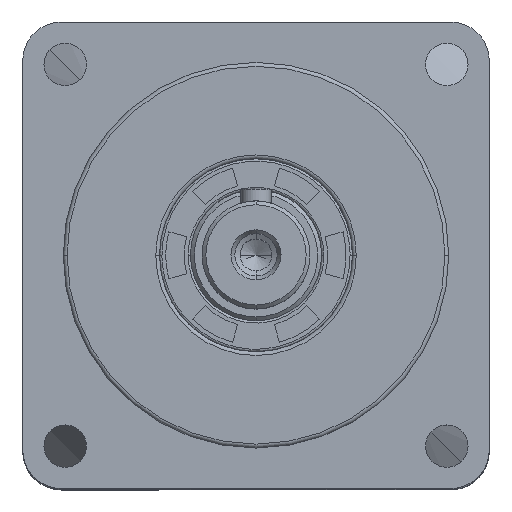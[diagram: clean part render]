
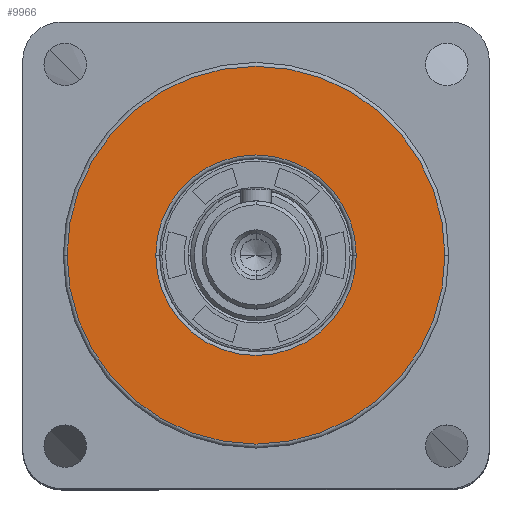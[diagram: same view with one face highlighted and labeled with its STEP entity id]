
A CAD part, top view. The second image highlights one B-rep face of the part: STEP entity #9966.
In plain terms, the highlighted planar face has unit normal (0, 0, 1).
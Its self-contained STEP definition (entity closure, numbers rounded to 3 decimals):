
#392 = EDGE_CURVE ( 'NONE', #20769, #27428, #6198, .T. ) ;
#592 = CARTESIAN_POINT ( 'NONE',  ( 0., 0., 20.9 ) ) ;
#644 = EDGE_CURVE ( 'NONE', #18388, #7050, #17569, .T. ) ;
#1146 = CARTESIAN_POINT ( 'NONE',  ( 24.5, 0., 20.9 ) ) ;
#4259 = EDGE_LOOP ( 'NONE', ( #14883, #4733 ) ) ;
#4733 = ORIENTED_EDGE ( 'NONE', *, *, #644, .T. ) ;
#5313 = AXIS2_PLACEMENT_3D ( 'NONE', #25656, #13264, #10653 ) ;
#6198 = CIRCLE ( 'NONE', #8673, 13. ) ;
#6835 = AXIS2_PLACEMENT_3D ( 'NONE', #7025, #24664, #27523 ) ;
#7025 = CARTESIAN_POINT ( 'NONE',  ( 0., 0., 20.9 ) ) ;
#7050 = VERTEX_POINT ( 'NONE', #1146 ) ;
#8105 = DIRECTION ( 'NONE',  ( 1., 0., 0. ) ) ;
#8417 = DIRECTION ( 'NONE',  ( 0., 0., -1. ) ) ;
#8673 = AXIS2_PLACEMENT_3D ( 'NONE', #592, #8417, #8105 ) ;
#9390 = AXIS2_PLACEMENT_3D ( 'NONE', #16859, #27074, #9768 ) ;
#9768 = DIRECTION ( 'NONE',  ( 1., 0., 0. ) ) ;
#9966 = ADVANCED_FACE ( 'NONE', ( #19843, #22985 ), #21821, .T. ) ;
#10653 = DIRECTION ( 'NONE',  ( 1., 0., 0. ) ) ;
#12395 = CIRCLE ( 'NONE', #9390, 24.5 ) ;
#12509 = DIRECTION ( 'NONE',  ( 1., 0., 0. ) ) ;
#13264 = DIRECTION ( 'NONE',  ( 0., 0., 1. ) ) ;
#14883 = ORIENTED_EDGE ( 'NONE', *, *, #17980, .T. ) ;
#15757 = CARTESIAN_POINT ( 'NONE',  ( -24.5, 0., 20.9 ) ) ;
#16859 = CARTESIAN_POINT ( 'NONE',  ( 0., 0., 20.9 ) ) ;
#17527 = CARTESIAN_POINT ( 'NONE',  ( 0., 0., 20.9 ) ) ;
#17569 = CIRCLE ( 'NONE', #5313, 24.5 ) ;
#17980 = EDGE_CURVE ( 'NONE', #7050, #18388, #12395, .T. ) ;
#18388 = VERTEX_POINT ( 'NONE', #15757 ) ;
#18719 = ORIENTED_EDGE ( 'NONE', *, *, #26914, .T. ) ;
#19649 = CIRCLE ( 'NONE', #6835, 13. ) ;
#19843 = FACE_OUTER_BOUND ( 'NONE', #4259, .T. ) ;
#20769 = VERTEX_POINT ( 'NONE', #21547 ) ;
#21547 = CARTESIAN_POINT ( 'NONE',  ( 13., 0., 20.9 ) ) ;
#21821 = PLANE ( 'NONE',  #26721 ) ;
#22697 = DIRECTION ( 'NONE',  ( 0., 0., 1. ) ) ;
#22985 = FACE_BOUND ( 'NONE', #31168, .T. ) ;
#24664 = DIRECTION ( 'NONE',  ( 0., 0., -1. ) ) ;
#25144 = ORIENTED_EDGE ( 'NONE', *, *, #392, .T. ) ;
#25656 = CARTESIAN_POINT ( 'NONE',  ( 0., 0., 20.9 ) ) ;
#26721 = AXIS2_PLACEMENT_3D ( 'NONE', #17527, #22697, #12509 ) ;
#26914 = EDGE_CURVE ( 'NONE', #27428, #20769, #19649, .T. ) ;
#27074 = DIRECTION ( 'NONE',  ( 0., 0., 1. ) ) ;
#27428 = VERTEX_POINT ( 'NONE', #28447 ) ;
#27523 = DIRECTION ( 'NONE',  ( 1., 0., 0. ) ) ;
#28447 = CARTESIAN_POINT ( 'NONE',  ( -13., 0., 20.9 ) ) ;
#31168 = EDGE_LOOP ( 'NONE', ( #25144, #18719 ) ) ;
